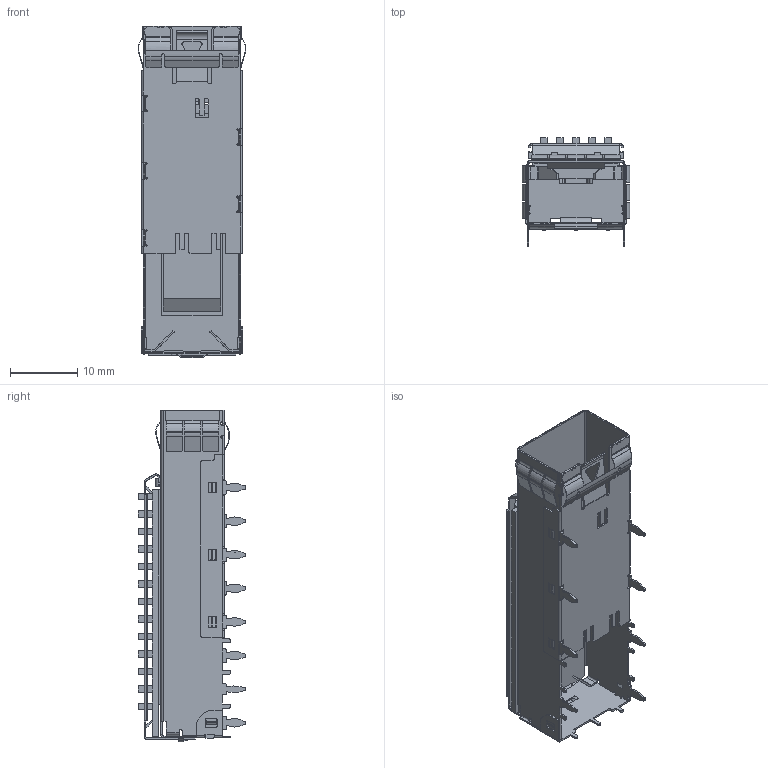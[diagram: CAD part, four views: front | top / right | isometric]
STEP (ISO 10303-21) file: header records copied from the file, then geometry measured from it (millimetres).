
FILE_DESCRIPTION (( 'STEP AP203' ), '1' );
FILE_NAME ('10710111W124-諦誧3D.STEP', '2022-04-15T07:41:39', ( '' ), ( '' ), 'SwSTEP 2.0', 'SolidWorks 2016', '' );
FILE_SCHEMA (( 'CONFIG_CONTROL_DESIGN' ));
Length unit declared in the file: millimetre
Products named in the file (3): 10710111W124-諦誧3D; 上盖20307F01056_CAGE+无弹片+带散热窗口+带散热支架+侧面带CZT+侧面7只鱼眼脚站脚高0.60鱼眼脚长2.90+后盖3只小直脚长1.2带布线避位+后盖带折弯工艺孔+后盖带散热片扣点; 零件35^10710111W124开窗前后 外弹片 压接
Assembly tree (2 placements, depth 2):
  10710111W124-諦誧3D
    上盖20307F01056_CAGE+无弹片+带散热窗口+带散热支架+侧面带CZT+侧面7只鱼眼脚站脚高0.60鱼眼脚长2.90+后盖3只小直脚长1.2带布线避位+后盖带折弯工艺孔+后盖带散热片扣点
    零件35^10710111W124开窗前后 外弹片 压接
Bounding box: 16.06 x 16.05 x 49.33 mm (x, y, z)
Volume: 1583.9 mm3; surface area: 7164.4 mm2
Topology: 6 solids, 6 shells, 1547 faces, 4592 edges, 3046 vertices
Faces by surface type: plane 961, cylinder 575, bspline 11
Entity records: 53159 total; most frequent: CARTESIAN_POINT 10408, ORIENTED_EDGE 9184, DIRECTION 8714, EDGE_CURVE 4592, VECTOR 3360, LINE 3360, VERTEX_POINT 3046, AXIS2_PLACEMENT_3D 2677
